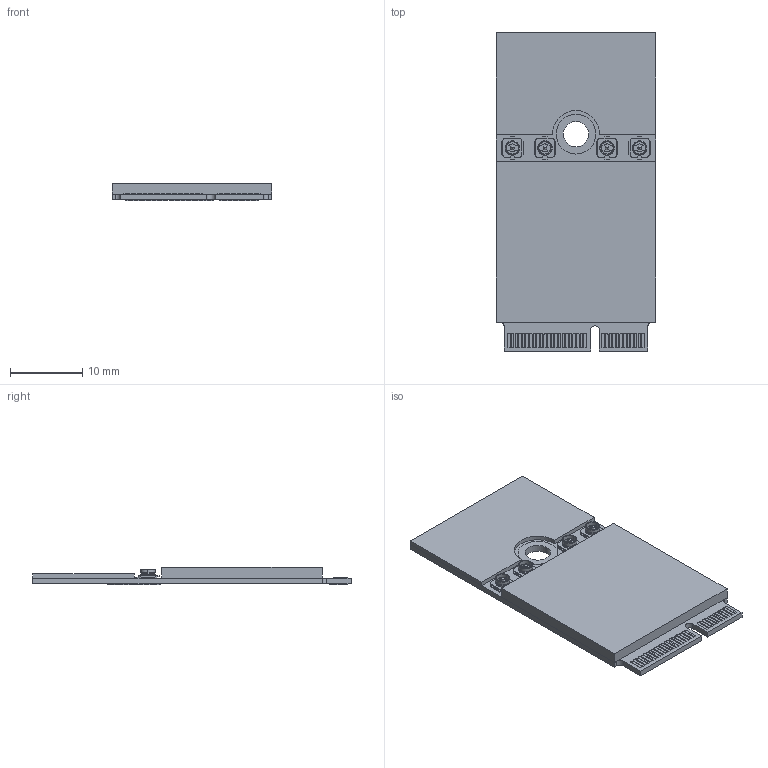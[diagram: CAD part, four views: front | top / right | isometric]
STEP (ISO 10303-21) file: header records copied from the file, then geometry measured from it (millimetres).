
FILE_DESCRIPTION(('CATIA V5 STEP Exchange'),'2;1');
FILE_NAME('\\server-nufotec\Projekt-Kunder\Embedded-Artists\Temp\2019-10-08\1XX-M2-MODULE-REV-A-ANTENNA-ASSY-2019-10-08.stp','2019-10-08T09:17:41+00:00',('none'),('none'),'CATIA Version 5 Release 19 GA (IN-10)','CATIA V5 STEP AP214','none');
FILE_SCHEMA(('AUTOMOTIVE_DESIGN { 1 0 10303 214 1 1 1 1 }'));
Length unit declared in the file: millimetre
Products named in the file (1): 1XX-M2-MODULE-REV-A-ANTENNA-ASSY-2019-10-08
Bounding box: 22 x 44 x 2.4 mm (x, y, z)
Volume: 1708.1 mm3; surface area: 4179 mm2
Topology: 10 solids, 10 shells, 650 faces, 1785 edges, 1164 vertices
Faces by surface type: plane 429, cylinder 189, cone 24, torus 8
Entity records: 20992 total; most frequent: CARTESIAN_POINT 3746, ORIENTED_EDGE 3570, DIRECTION 2641, EDGE_CURVE 1785, VECTOR 1252, LINE 1252, VERTEX_POINT 1164, AXIS2_PLACEMENT_3D 942
